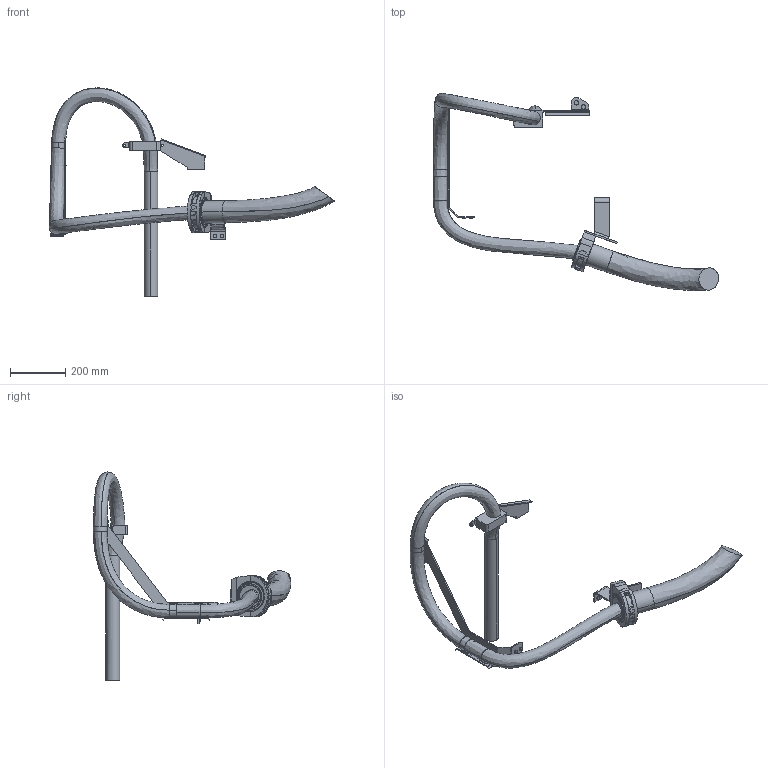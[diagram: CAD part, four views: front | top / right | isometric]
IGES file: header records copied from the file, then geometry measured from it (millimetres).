
Start section: SolidWorks IGES file using analytic representation for surfaces
Global section: file name: N:\DM\Robotics\SEROP_PROJ\Product Development\DevelopmentProjects\Manipulator_Modularity\04. Product Design\06. CAD\Amanda\6730S Simulation models\\IRB6730S-MH3_150kg-400_OC_01_IGES_J\IRB6730S-ALL-OC_00_LINK01_CABLE.igs; native system: SolidWorks 2024; preprocessor: SolidWorks 2024; author: SEJOHLUN; date: 251219.144937; units: millimetre
Bounding box: 1033.07 x 714.68 x 754.03 mm (x, y, z)
Surface area: 692239.5 mm2 (no closed solid volume)
Topology: 0 solids, 0 shells, 424 faces, 6015 edges, 6015 vertices
Faces by surface type: bspline 271, revolution 153
